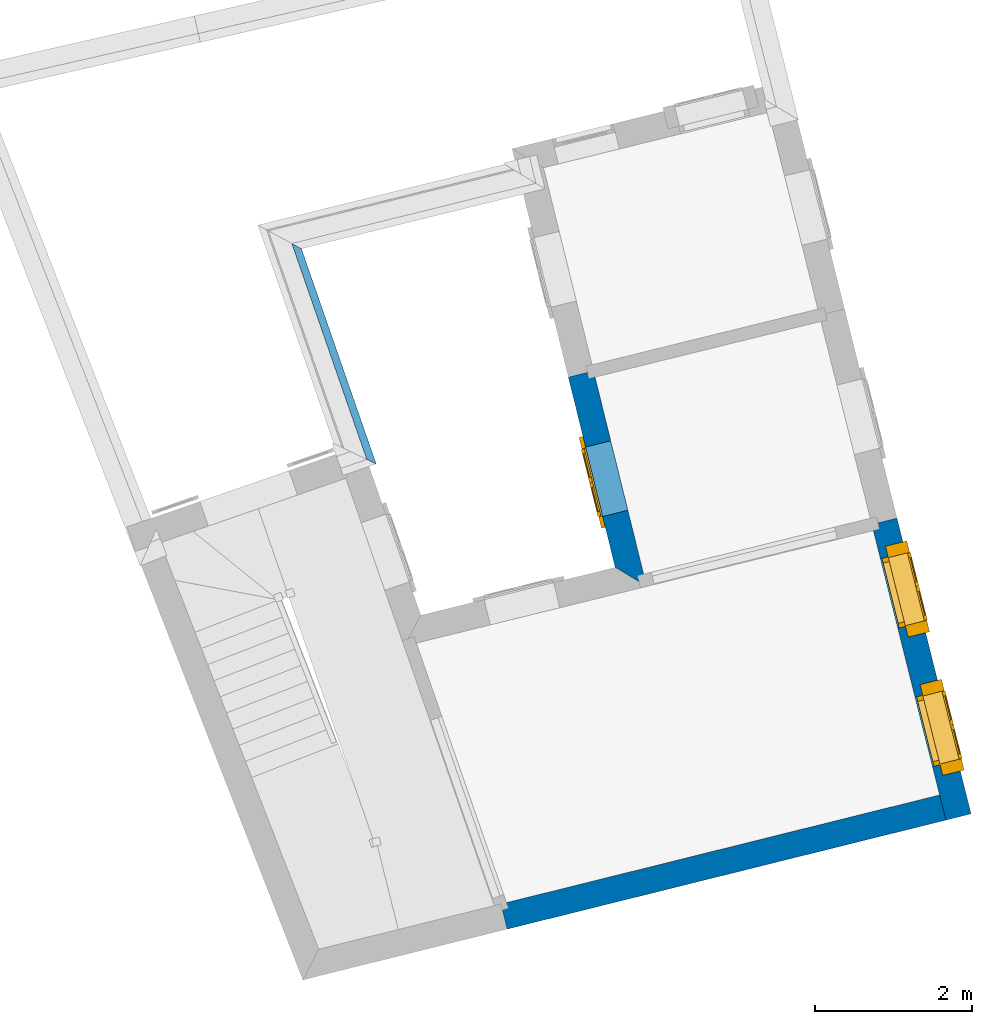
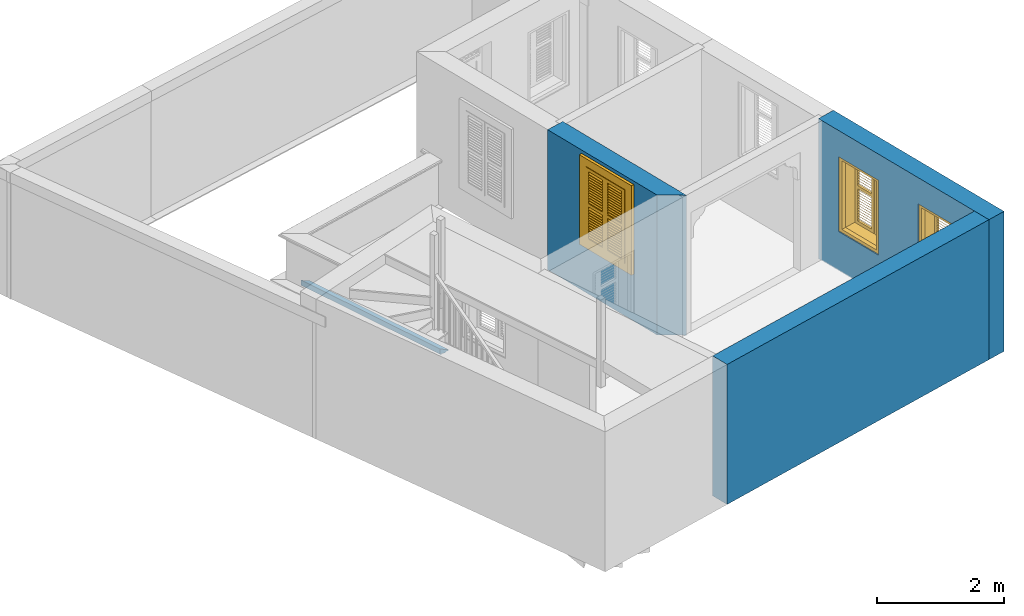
# One storey, part 3 of 8: 4 walls, 3 windows, 3 openings.
"""IFC4 building model written with IfcOpenShell, lengths in metres."""

from ifc_helpers import new_model, si_unit, frame, origin, origin_with_axes, place, context, subcontext, project, spatial, polyline, outline, extrude, clip, halfspace, faceted_brep, source, transform, mapped, material, layer, layer_set, layer_usage, material_profile, profile_set, profile_usage, type_object, type_shapes, element, fill, save


model = new_model("IFC4")

# Units and contexts
model_context = context("Model", 3, world=origin_with_axes())
body_context = subcontext(model_context, "Body", "Model", "MODEL_VIEW")
ifc_project = project(units=[si_unit("PLANEANGLEUNIT", "RADIAN"), si_unit("MASSUNIT", "GRAM", prefix="KILO"), si_unit("FORCEUNIT", "NEWTON", prefix="KILO"), si_unit("LENGTHUNIT", "METRE"), si_unit("AREAUNIT", "SQUARE_METRE"), si_unit("VOLUMEUNIT", "CUBIC_METRE")], contexts=[model_context, model_context])

# Site, building, storey
site_placement = place(None, origin_with_axes())
site = spatial("IfcSite", under=ifc_project, at=site_placement, Name="Site plot-1", CompositionType="ELEMENT")
building_placement = place(None, origin_with_axes())
building = spatial("IfcBuilding", under=site, at=building_placement, Name="Building plot-1", CompositionType="ELEMENT")
storey_placement = place(None, frame((0.0, 0.0, 2.7), z_axis=(0.0, 0.0, 1.0), x_axis=(1.0, 0.0, 0.0)))
storey = spatial("IfcBuildingStorey", under=building, at=storey_placement, Name="plot-1 1", CompositionType="ELEMENT", Elevation=2.7)

# Wall, openings, windows
ifc_material_1 = material(Name="Masonry")
ifc_layer_1 = layer(ifc_material_1, 0.33, ventilated=False)
ifc_layer_set_1 = layer_set([ifc_layer_1], Name="exterior_0.08_0.25")
ifc_layer_usage_1 = layer_usage(ifc_layer_set_1, "AXIS2", "POSITIVE", -0.25)
wall_type_1 = type_object("IfcWallType", Name="exterior_0.08_0.25", PredefinedType="SOLIDWALL", material=ifc_layer_set_1)
wall_1_placement = place(storey_placement, frame((7.07192765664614, 15.8037351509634, 0.0), z_axis=(0.0, 0.0, 1.0), x_axis=(-0.242972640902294, 0.970033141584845, 0.0)))
wall_1 = element("IfcWall", 1, at=wall_1_placement, inside=storey, type_object=wall_type_1, material=ifc_layer_usage_1, Name="exterior", context=body_context, shape_type="SweptSolid", body=[
    extrude(outline(polyline([(-0.249999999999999, 0.0799999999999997), (-0.249999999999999, -0.25), (3.62583000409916, -0.25), (3.62583000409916, 0.08), (-0.249999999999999, 0.0799999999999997)])), origin_with_axes(), (0.0, 0.0, 1.0), 2.7),
])
opening_1_placement = place(wall_1_placement, frame((0.451457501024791, 0.0, 0.75)))
opening_1 = element("IfcOpeningElement", 2, at=opening_1_placement, cuts=wall_1, Name="My Opening", ObjectType="Opening", context=body_context, shape_type="SweptSolid", body=[
    extrude(outline(polyline([(0.0, -0.270000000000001), (0.909999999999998, -0.27), (0.909999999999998, 1.1), (-4.44089209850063e-16, 1.1), (0.0, -0.270000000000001)])), origin_with_axes(), (0.0, 0.0, 1.0), 1.445),
])
opening_2_placement = place(wall_1_placement, frame((2.26437250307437, 0.0, 0.75)))
opening_2 = element("IfcOpeningElement", 3, at=opening_2_placement, cuts=wall_1, Name="My Opening", ObjectType="Opening", context=body_context, shape_type="SweptSolid", body=[
    extrude(outline(polyline([(0.0, -0.27), (0.910000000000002, -0.27), (0.910000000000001, 1.1), (-4.44089209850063e-16, 1.1), (0.0, -0.27)])), origin_with_axes(), (0.0, 0.0, 1.0), 1.445),
])
window_type = type_object("IfcWindowType", Name="shuttered_shorter", PartitioningType="DOUBLE_PANEL_HORIZONTAL", PredefinedType="NOTDEFINED")
shared_shape = source(origin(), body_context, "Body", "Brep", [
    faceted_brep([(0.393, 0.0, 0.622), (0.074, 0.0, 0.622), (0.074, 0.0, 0.632), (0.393, 0.0, 0.632), (0.074, -0.04, 0.592), (0.393, -0.04, 0.592), (0.393, -0.04, 0.582), (0.074, -0.04, 0.582), (0.517, 0.0, 0.682), (0.836, 0.0, 0.682), (0.836, 0.0, 0.672), (0.517, 0.0, 0.672), (0.517, -0.04, 0.642), (0.836, -0.04, 0.642), (0.836, -0.04, 0.632), (0.517, -0.04, 0.632), (0.517, 0.0, 0.632), (0.836, 0.0, 0.632), (0.836, 0.0, 0.622), (0.517, 0.0, 0.622), (0.517, -0.04, 0.592), (0.836, -0.04, 0.592), (0.836, -0.04, 0.582), (0.517, -0.04, 0.582), (0.517, 0.0, 0.232), (0.836, 0.0, 0.232), (0.836, 0.0, 0.222), (0.517, 0.0, 0.222), (0.517, -0.04, 0.192), (0.836, -0.04, 0.192), (0.836, -0.04, 0.182), (0.517, -0.04, 0.182), (0.517, 0.0, 0.532), (0.836, 0.0, 0.532), (0.836, 0.0, 0.522), (0.517, 0.0, 0.522), (0.517, -0.04, 0.492), (0.836, -0.04, 0.492), (0.836, -0.04, 0.482), (0.517, -0.04, 0.482), (0.517, 0.0, 0.482), (0.836, 0.0, 0.482), (0.836, 0.0, 0.472), (0.517, 0.0, 0.472), (0.517, -0.04, 0.442), (0.836, -0.04, 0.442), (0.836, -0.04, 0.432), (0.517, -0.04, 0.432), (0.517, 0.0, 0.582), (0.836, 0.0, 0.582), (0.836, 0.0, 0.572), (0.517, 0.0, 0.572), (0.517, -0.04, 0.542), (0.836, -0.04, 0.542), (0.836, -0.04, 0.532), (0.517, -0.04, 0.532), (0.517, 0.0, 0.182), (0.836, 0.0, 0.182), (0.836, 0.0, 0.172), (0.517, 0.0, 0.172), (0.517, -0.04, 0.142), (0.836, -0.04, 0.142), (0.836, -0.04, 0.132), (0.517, -0.04, 0.132), (0.517, 0.0, 0.382), (0.836, 0.0, 0.382), (0.836, 0.0, 0.372), (0.517, 0.0, 0.372), (0.517, -0.04, 0.342), (0.836, -0.04, 0.342), (0.836, -0.04, 0.332), (0.517, -0.04, 0.332), (0.517, 0.0, 0.432), (0.836, 0.0, 0.432), (0.836, 0.0, 0.422), (0.517, 0.0, 0.422), (0.517, -0.04, 0.392), (0.836, -0.04, 0.392), (0.836, -0.04, 0.382), (0.517, -0.04, 0.382), (0.517, 0.0, 0.132), (0.836, 0.0, 0.132), (0.836, 0.0, 0.122), (0.517, 0.0, 0.122), (0.517, -0.04, 0.092), (0.836, -0.04, 0.092), (0.836, -0.04, 0.082), (0.517, -0.04, 0.082), (0.517, 0.0, 0.282), (0.836, 0.0, 0.282), (0.836, 0.0, 0.272), (0.517, 0.0, 0.272), (0.517, -0.04, 0.242), (0.836, -0.04, 0.242), (0.836, -0.04, 0.232), (0.517, -0.04, 0.232), (0.517, 0.0, 0.332), (0.836, 0.0, 0.332), (0.836, 0.0, 0.322), (0.517, 0.0, 0.322), (0.517, -0.04, 0.292), (0.836, -0.04, 0.292), (0.836, -0.04, 0.282), (0.517, -0.04, 0.282), (0.517, 0.0, 1.362667), (0.836, 0.0, 1.362667), (0.836, 0.0, 1.352667), (0.517, 0.0, 1.352667), (0.517, -0.04, 1.322667), (0.836, -0.04, 1.322667), (0.836, -0.04, 1.312667), (0.517, -0.04, 1.312667), (0.517, 0.0, 1.312667), (0.836, 0.0, 1.312667), (0.836, 0.0, 1.302667), (0.517, 0.0, 1.302667), (0.517, -0.04, 1.272667), (0.836, -0.04, 1.272667), (0.836, -0.04, 1.262667), (0.517, -0.04, 1.262667), (0.517, 0.0, 0.912667), (0.836, 0.0, 0.912667), (0.836, 0.0, 0.902667), (0.517, 0.0, 0.902667), (0.517, -0.04, 0.872667), (0.836, -0.04, 0.872667), (0.836, -0.04, 0.862667), (0.517, -0.04, 0.862667), (0.517, 0.0, 1.212667), (0.836, 0.0, 1.212667), (0.836, 0.0, 1.202667), (0.517, 0.0, 1.202667), (0.517, -0.04, 1.172667), (0.836, -0.04, 1.172667), (0.836, -0.04, 1.162667), (0.517, -0.04, 1.162667), (0.517, 0.0, 1.162667), (0.836, 0.0, 1.162667), (0.836, 0.0, 1.152667), (0.517, 0.0, 1.152667), (0.517, -0.04, 1.122667), (0.836, -0.04, 1.122667), (0.836, -0.04, 1.112667), (0.517, -0.04, 1.112667), (0.517, 0.0, 1.262667), (0.836, 0.0, 1.262667), (0.836, 0.0, 1.252667), (0.517, 0.0, 1.252667), (0.517, -0.04, 1.222667), (0.836, -0.04, 1.222667), (0.836, -0.04, 1.212667), (0.517, -0.04, 1.212667), (0.517, 0.0, 0.862667), (0.836, 0.0, 0.862667), (0.836, 0.0, 0.852667), (0.517, 0.0, 0.852667), (0.517, -0.04, 0.822667), (0.836, -0.04, 0.822667), (0.836, -0.04, 0.812667), (0.517, -0.04, 0.812667), (0.517, 0.0, 1.062667), (0.836, 0.0, 1.062667), (0.836, 0.0, 1.052667), (0.517, 0.0, 1.052667), (0.517, -0.04, 1.022667), (0.836, -0.04, 1.022667), (0.836, -0.04, 1.012667), (0.517, -0.04, 1.012667), (0.517, 0.0, 1.112667), (0.836, 0.0, 1.112667), (0.836, 0.0, 1.102667), (0.517, 0.0, 1.102667), (0.517, -0.04, 1.072667), (0.836, -0.04, 1.072667), (0.836, -0.04, 1.062667), (0.517, -0.04, 1.062667), (0.517, 0.0, 0.812667), (0.836, 0.0, 0.812667), (0.836, 0.0, 0.802667), (0.517, 0.0, 0.802667), (0.517, -0.04, 0.772667), (0.836, -0.04, 0.772667), (0.836, -0.04, 0.762667), (0.517, -0.04, 0.762667), (0.517, 0.0, 0.962667), (0.836, 0.0, 0.962667), (0.836, 0.0, 0.952667), (0.517, 0.0, 0.952667), (0.517, -0.04, 0.922667), (0.836, -0.04, 0.922667), (0.836, -0.04, 0.912667), (0.517, -0.04, 0.912667), (0.517, 0.0, 1.012667), (0.836, 0.0, 1.012667), (0.836, 0.0, 1.002667), (0.517, 0.0, 1.002667), (0.517, -0.04, 0.972667), (0.836, -0.04, 0.972667), (0.836, -0.04, 0.962667), (0.517, -0.04, 0.962667), (0.074, 0.0, 0.682), (0.393, 0.0, 0.682), (0.393, 0.0, 0.672), (0.074, 0.0, 0.672), (0.074, -0.04, 0.642), (0.393, -0.04, 0.642), (0.393, -0.04, 0.632), (0.074, -0.04, 0.632), (0.074, 0.0, 0.232), (0.393, 0.0, 0.232), (0.393, 0.0, 0.222), (0.074, 0.0, 0.222), (0.074, -0.04, 0.192), (0.393, -0.04, 0.192), (0.393, -0.04, 0.182), (0.074, -0.04, 0.182), (0.074, 0.0, 0.532), (0.393, 0.0, 0.532), (0.393, 0.0, 0.522), (0.074, 0.0, 0.522), (0.074, -0.04, 0.492), (0.393, -0.04, 0.492), (0.393, -0.04, 0.482), (0.074, -0.04, 0.482), (0.074, 0.0, 0.482), (0.393, 0.0, 0.482), (0.393, 0.0, 0.472), (0.074, 0.0, 0.472), (0.074, -0.04, 0.442), (0.393, -0.04, 0.442), (0.393, -0.04, 0.432), (0.074, -0.04, 0.432), (0.074, 0.0, 0.582), (0.393, 0.0, 0.582), (0.393, 0.0, 0.572), (0.074, 0.0, 0.572), (0.074, -0.04, 0.542), (0.393, -0.04, 0.542), (0.393, -0.04, 0.532), (0.074, -0.04, 0.532), (0.074, 0.0, 0.182), (0.393, 0.0, 0.182), (0.393, 0.0, 0.172), (0.074, 0.0, 0.172), (0.074, -0.04, 0.142), (0.393, -0.04, 0.142), (0.393, -0.04, 0.132), (0.074, -0.04, 0.132), (0.074, 0.0, 0.382), (0.393, 0.0, 0.382), (0.393, 0.0, 0.372), (0.074, 0.0, 0.372), (0.074, -0.04, 0.342), (0.393, -0.04, 0.342), (0.393, -0.04, 0.332), (0.074, -0.04, 0.332), (0.074, 0.0, 0.432), (0.393, 0.0, 0.432), (0.393, 0.0, 0.422), (0.074, 0.0, 0.422), (0.074, -0.04, 0.392), (0.393, -0.04, 0.392), (0.393, -0.04, 0.382), (0.074, -0.04, 0.382), (0.074, 0.0, 0.132), (0.393, 0.0, 0.132), (0.393, 0.0, 0.122), (0.074, 0.0, 0.122), (0.074, -0.04, 0.092), (0.393, -0.04, 0.092), (0.393, -0.04, 0.082), (0.074, -0.04, 0.082), (0.074, 0.0, 0.282), (0.393, 0.0, 0.282), (0.393, 0.0, 0.272), (0.074, 0.0, 0.272), (0.074, -0.04, 0.242), (0.393, -0.04, 0.242), (0.393, -0.04, 0.232), (0.074, -0.04, 0.232), (0.074, 0.0, 0.332), (0.393, 0.0, 0.332), (0.393, 0.0, 0.322), (0.074, 0.0, 0.322), (0.074, -0.04, 0.292), (0.393, -0.04, 0.292), (0.393, -0.04, 0.282), (0.074, -0.04, 0.282), (0.074, 0.0, 1.362667), (0.393, 0.0, 1.362667), (0.393, 0.0, 1.352667), (0.074, 0.0, 1.352667), (0.074, -0.04, 1.322667), (0.393, -0.04, 1.322667), (0.393, -0.04, 1.312667), (0.074, -0.04, 1.312667), (0.074, 0.0, 1.312667), (0.393, 0.0, 1.312667), (0.393, 0.0, 1.302667), (0.074, 0.0, 1.302667), (0.074, -0.04, 1.272667), (0.393, -0.04, 1.272667), (0.393, -0.04, 1.262667), (0.074, -0.04, 1.262667), (0.074, 0.0, 0.912667), (0.393, 0.0, 0.912667), (0.393, 0.0, 0.902667), (0.074, 0.0, 0.902667), (0.074, -0.04, 0.872667), (0.393, -0.04, 0.872667), (0.393, -0.04, 0.862667), (0.074, -0.04, 0.862667), (0.074, 0.0, 1.212667), (0.393, 0.0, 1.212667), (0.393, 0.0, 1.202667), (0.074, 0.0, 1.202667), (0.074, -0.04, 1.172667), (0.393, -0.04, 1.172667), (0.393, -0.04, 1.162667), (0.074, -0.04, 1.162667), (0.074, 0.0, 1.162667), (0.393, 0.0, 1.162667), (0.393, 0.0, 1.152667), (0.074, 0.0, 1.152667), (0.074, -0.04, 1.122667), (0.393, -0.04, 1.122667), (0.393, -0.04, 1.112667), (0.074, -0.04, 1.112667), (0.074, 0.0, 1.262667), (0.393, 0.0, 1.262667), (0.393, 0.0, 1.252667), (0.074, 0.0, 1.252667), (0.074, -0.04, 1.222667), (0.393, -0.04, 1.222667), (0.393, -0.04, 1.212667), (0.074, -0.04, 1.212667), (0.074, 0.0, 0.862667), (0.393, 0.0, 0.862667), (0.393, 0.0, 0.852667), (0.074, 0.0, 0.852667), (0.074, -0.04, 0.822667), (0.393, -0.04, 0.822667), (0.393, -0.04, 0.812667), (0.074, -0.04, 0.812667), (0.074, 0.0, 1.062667), (0.393, 0.0, 1.062667), (0.393, 0.0, 1.052667), (0.074, 0.0, 1.052667), (0.074, -0.04, 1.022667), (0.393, -0.04, 1.022667), (0.393, -0.04, 1.012667), (0.074, -0.04, 1.012667), (0.074, 0.0, 1.112667), (0.393, 0.0, 1.112667), (0.393, 0.0, 1.102667), (0.074, 0.0, 1.102667), (0.074, -0.04, 1.072667), (0.393, -0.04, 1.072667), (0.393, -0.04, 1.062667), (0.074, -0.04, 1.062667), (0.074, 0.0, 0.812667), (0.393, 0.0, 0.812667), (0.393, 0.0, 0.802667), (0.074, 0.0, 0.802667), (0.074, -0.04, 0.772667), (0.393, -0.04, 0.772667), (0.393, -0.04, 0.762667), (0.074, -0.04, 0.762667), (0.074, 0.0, 0.962667), (0.393, 0.0, 0.962667), (0.393, 0.0, 0.952667), (0.074, 0.0, 0.952667), (0.074, -0.04, 0.922667), (0.393, -0.04, 0.922667), (0.393, -0.04, 0.912667), (0.074, -0.04, 0.912667), (0.074, 0.0, 1.012667), (0.393, 0.0, 1.012667), (0.393, 0.0, 1.002667), (0.074, 0.0, 1.002667), (0.074, -0.04, 0.972667), (0.393, -0.04, 0.972667), (0.393, -0.04, 0.962667), (0.074, -0.04, 0.962667), (0.517, -0.04, 0.072), (0.457, -0.04, 0.012), (0.896, -0.04, 0.012), (0.836, -0.04, 0.072), (0.457, -0.04, 0.692667), (0.517, -0.04, 0.692667), (0.457, 0.0, 0.012), (0.896, 0.0, 0.012), (0.836, -0.04, 0.692667), (0.896, -0.04, 0.692667), (0.836, 0.0, 0.072), (0.517, 0.0, 0.072), (0.457, 0.0, 0.692667), (0.517, 0.0, 0.692667), (0.517, -0.04, 0.752666), (0.457, -0.04, 0.752666), (0.896, 0.0, 0.692667), (0.836, 0.0, 0.692667), (0.836, -0.04, 0.752666), (0.896, -0.04, 0.752666), (0.457, 0.0, 0.752666), (0.457, -0.04, 1.433333), (0.517, -0.04, 1.373333), (0.896, 0.0, 0.752666), (0.836, -0.04, 1.373333), (0.896, -0.04, 1.433333), (0.457, 0.0, 1.433333), (0.517, 0.0, 0.752666), (0.836, 0.0, 0.752666), (0.517, 0.0, 1.373333), (0.896, 0.0, 1.433333), (0.836, 0.0, 1.373333), (0.074, -0.04, 0.072), (0.014, -0.04, 0.012), (0.453, -0.04, 0.012), (0.393, -0.04, 0.072), (0.014, -0.04, 0.692667), (0.074, -0.04, 0.692667), (0.014, 0.0, 0.012), (0.453, 0.0, 0.012), (0.393, -0.04, 0.692667), (0.453, -0.04, 0.692667), (0.393, 0.0, 0.072), (0.074, 0.0, 0.072), (0.014, 0.0, 0.692667), (0.074, 0.0, 0.692667), (0.074, -0.04, 0.752666), (0.014, -0.04, 0.752666), (0.453, 0.0, 0.692667), (0.393, 0.0, 0.692667), (0.393, -0.04, 0.752666), (0.453, -0.04, 0.752666), (0.014, 0.0, 0.752666), (0.014, -0.04, 1.433333), (0.074, -0.04, 1.373333), (0.453, 0.0, 0.752666), (0.393, -0.04, 1.373333), (0.453, -0.04, 1.433333), (0.014, 0.0, 1.433333), (0.074, 0.0, 0.752666), (0.393, 0.0, 0.752666), (0.074, 0.0, 1.373333), (0.453, 0.0, 1.433333), (0.393, 0.0, 1.373333), (0.0, 0.33, 1.445), (0.91, 0.33, 1.445), (0.85, 0.33, 1.385), (0.06, 0.33, 1.385), (0.91, 0.25, 1.445), (0.0, 0.25, 1.445), (0.91, 0.25, 1.445), (0.85, 0.33, 0.06), (0.91, 0.33, 0.0), (0.85, 0.25, 1.385), (0.06, 0.25, 1.385), (0.0, 0.33, 0.0), (0.06, 0.33, 0.06), (0.0, 0.25, 0.0), (0.91, 0.25, 0.0), (0.85, 0.25, 0.06), (0.06, 0.25, 0.06), (1.05, 0.25, 1.585), (-0.14, 0.25, 1.585), (-0.14, -0.03, 1.585), (1.05, -0.03, 1.585), (0.9, -0.03, 1.435), (0.01, -0.03, 1.435), (0.01, 0.25, 1.435), (0.9, 0.25, 1.435), (0.9, 0.25, 0.01), (0.9, -0.03, 0.01), (1.05, -0.03, -0.14), (1.05, 0.25, -0.14), (0.01, -0.03, 0.01), (0.01, 0.25, 0.01), (-0.14, -0.03, -0.14), (-0.14, 0.25, -0.14)], [[[0, 1, 2, 3]], [[4, 5, 3, 2]], [[5, 6, 0, 3]], [[1, 0, 6, 7]], [[2, 1, 7, 4]], [[5, 4, 7, 6]], [[8, 9, 10, 11]], [[12, 13, 9, 8]], [[13, 14, 10, 9]], [[14, 15, 11, 10]], [[15, 12, 8, 11]], [[13, 12, 15, 14]], [[16, 17, 18, 19]], [[20, 21, 17, 16]], [[21, 22, 18, 17]], [[22, 23, 19, 18]], [[23, 20, 16, 19]], [[21, 20, 23, 22]], [[24, 25, 26, 27]], [[28, 29, 25, 24]], [[29, 30, 26, 25]], [[30, 31, 27, 26]], [[31, 28, 24, 27]], [[29, 28, 31, 30]], [[32, 33, 34, 35]], [[36, 37, 33, 32]], [[37, 38, 34, 33]], [[38, 39, 35, 34]], [[39, 36, 32, 35]], [[37, 36, 39, 38]], [[40, 41, 42, 43]], [[44, 45, 41, 40]], [[45, 46, 42, 41]], [[46, 47, 43, 42]], [[47, 44, 40, 43]], [[45, 44, 47, 46]], [[48, 49, 50, 51]], [[52, 53, 49, 48]], [[53, 54, 50, 49]], [[54, 55, 51, 50]], [[55, 52, 48, 51]], [[53, 52, 55, 54]], [[56, 57, 58, 59]], [[60, 61, 57, 56]], [[61, 62, 58, 57]], [[62, 63, 59, 58]], [[63, 60, 56, 59]], [[61, 60, 63, 62]], [[64, 65, 66, 67]], [[68, 69, 65, 64]], [[69, 70, 66, 65]], [[70, 71, 67, 66]], [[71, 68, 64, 67]], [[69, 68, 71, 70]], [[72, 73, 74, 75]], [[76, 77, 73, 72]], [[77, 78, 74, 73]], [[78, 79, 75, 74]], [[79, 76, 72, 75]], [[77, 76, 79, 78]], [[80, 81, 82, 83]], [[84, 85, 81, 80]], [[85, 86, 82, 81]], [[86, 87, 83, 82]], [[87, 84, 80, 83]], [[85, 84, 87, 86]], [[88, 89, 90, 91]], [[92, 93, 89, 88]], [[93, 94, 90, 89]], [[94, 95, 91, 90]], [[95, 92, 88, 91]], [[93, 92, 95, 94]], [[96, 97, 98, 99]], [[100, 101, 97, 96]], [[101, 102, 98, 97]], [[102, 103, 99, 98]], [[103, 100, 96, 99]], [[101, 100, 103, 102]], [[104, 105, 106, 107]], [[108, 109, 105, 104]], [[109, 110, 106, 105]], [[110, 111, 107, 106]], [[111, 108, 104, 107]], [[109, 108, 111, 110]], [[112, 113, 114, 115]], [[116, 117, 113, 112]], [[117, 118, 114, 113]], [[118, 119, 115, 114]], [[119, 116, 112, 115]], [[117, 116, 119, 118]], [[120, 121, 122, 123]], [[124, 125, 121, 120]], [[125, 126, 122, 121]], [[126, 127, 123, 122]], [[127, 124, 120, 123]], [[125, 124, 127, 126]], [[128, 129, 130, 131]], [[132, 133, 129, 128]], [[133, 134, 130, 129]], [[134, 135, 131, 130]], [[135, 132, 128, 131]], [[133, 132, 135, 134]], [[136, 137, 138, 139]], [[140, 141, 137, 136]], [[141, 142, 138, 137]], [[142, 143, 139, 138]], [[139, 143, 140, 136]], [[141, 140, 143, 142]], [[144, 145, 146, 147]], [[148, 149, 145, 144]], [[149, 150, 146, 145]], [[150, 151, 147, 146]], [[151, 148, 144, 147]], [[149, 148, 151, 150]], [[152, 153, 154, 155]], [[156, 157, 153, 152]], [[157, 158, 154, 153]], [[158, 159, 155, 154]], [[159, 156, 152, 155]], [[157, 156, 159, 158]], [[160, 161, 162, 163]], [[164, 165, 161, 160]], [[165, 166, 162, 161]], [[166, 167, 163, 162]], [[167, 164, 160, 163]], [[165, 164, 167, 166]], [[168, 169, 170, 171]], [[172, 173, 169, 168]], [[173, 174, 170, 169]], [[174, 175, 171, 170]], [[175, 172, 168, 171]], [[173, 172, 175, 174]], [[176, 177, 178, 179]], [[180, 181, 177, 176]], [[181, 182, 178, 177]], [[182, 183, 179, 178]], [[183, 180, 176, 179]], [[181, 180, 183, 182]], [[184, 185, 186, 187]], [[188, 189, 185, 184]], [[189, 190, 186, 185]], [[190, 191, 187, 186]], [[191, 188, 184, 187]], [[189, 188, 191, 190]], [[192, 193, 194, 195]], [[196, 197, 193, 192]], [[197, 198, 194, 193]], [[198, 199, 195, 194]], [[199, 196, 192, 195]], [[197, 196, 199, 198]], [[200, 201, 202, 203]], [[204, 205, 201, 200]], [[205, 206, 202, 201]], [[206, 207, 203, 202]], [[207, 204, 200, 203]], [[205, 204, 207, 206]], [[208, 209, 210, 211]], [[212, 213, 209, 208]], [[213, 214, 210, 209]], [[214, 215, 211, 210]], [[215, 212, 208, 211]], [[213, 212, 215, 214]], [[216, 217, 218, 219]], [[220, 221, 217, 216]], [[221, 222, 218, 217]], [[222, 223, 219, 218]], [[223, 220, 216, 219]], [[221, 220, 223, 222]], [[224, 225, 226, 227]], [[228, 229, 225, 224]], [[229, 230, 226, 225]], [[230, 231, 227, 226]], [[231, 228, 224, 227]], [[229, 228, 231, 230]], [[232, 233, 234, 235]], [[236, 237, 233, 232]], [[237, 238, 234, 233]], [[238, 239, 235, 234]], [[239, 236, 232, 235]], [[237, 236, 239, 238]], [[240, 241, 242, 243]], [[244, 245, 241, 240]], [[245, 246, 242, 241]], [[246, 247, 243, 242]], [[247, 244, 240, 243]], [[245, 244, 247, 246]], [[248, 249, 250, 251]], [[252, 253, 249, 248]], [[253, 254, 250, 249]], [[254, 255, 251, 250]], [[255, 252, 248, 251]], [[253, 252, 255, 254]], [[256, 257, 258, 259]], [[260, 261, 257, 256]], [[261, 262, 258, 257]], [[262, 263, 259, 258]], [[263, 260, 256, 259]], [[261, 260, 263, 262]], [[264, 265, 266, 267]], [[268, 269, 265, 264]], [[269, 270, 266, 265]], [[270, 271, 267, 266]], [[271, 268, 264, 267]], [[269, 268, 271, 270]], [[272, 273, 274, 275]], [[276, 277, 273, 272]], [[277, 278, 274, 273]], [[278, 279, 275, 274]], [[279, 276, 272, 275]], [[277, 276, 279, 278]], [[280, 281, 282, 283]], [[284, 285, 281, 280]], [[285, 286, 282, 281]], [[286, 287, 283, 282]], [[287, 284, 280, 283]], [[285, 284, 287, 286]], [[288, 289, 290, 291]], [[292, 293, 289, 288]], [[293, 294, 290, 289]], [[294, 295, 291, 290]], [[295, 292, 288, 291]], [[293, 292, 295, 294]], [[296, 297, 298, 299]], [[300, 301, 297, 296]], [[301, 302, 298, 297]], [[302, 303, 299, 298]], [[303, 300, 296, 299]], [[301, 300, 303, 302]], [[304, 305, 306, 307]], [[308, 309, 305, 304]], [[309, 310, 306, 305]], [[310, 311, 307, 306]], [[311, 308, 304, 307]], [[309, 308, 311, 310]], [[312, 313, 314, 315]], [[316, 317, 313, 312]], [[317, 318, 314, 313]], [[318, 319, 315, 314]], [[319, 316, 312, 315]], [[317, 316, 319, 318]], [[320, 321, 322, 323]], [[324, 325, 321, 320]], [[325, 326, 322, 321]], [[326, 327, 323, 322]], [[327, 324, 320, 323]], [[325, 324, 327, 326]], [[328, 329, 330, 331]], [[332, 333, 329, 328]], [[333, 334, 330, 329]], [[334, 335, 331, 330]], [[335, 332, 328, 331]], [[333, 332, 335, 334]], [[336, 337, 338, 339]], [[340, 341, 337, 336]], [[341, 342, 338, 337]], [[342, 343, 339, 338]], [[343, 340, 336, 339]], [[341, 340, 343, 342]], [[344, 345, 346, 347]], [[348, 349, 345, 344]], [[349, 350, 346, 345]], [[350, 351, 347, 346]], [[351, 348, 344, 347]], [[349, 348, 351, 350]], [[352, 353, 354, 355]], [[356, 357, 353, 352]], [[357, 358, 354, 353]], [[358, 359, 355, 354]], [[359, 356, 352, 355]], [[357, 356, 359, 358]], [[360, 361, 362, 363]], [[364, 365, 361, 360]], [[365, 366, 362, 361]], [[366, 367, 363, 362]], [[367, 364, 360, 363]], [[365, 364, 367, 366]], [[368, 369, 370, 371]], [[372, 373, 369, 368]], [[373, 374, 370, 369]], [[374, 375, 371, 370]], [[375, 372, 368, 371]], [[373, 372, 375, 374]], [[376, 377, 378, 379]], [[380, 381, 377, 376]], [[381, 382, 378, 377]], [[382, 383, 379, 378]], [[383, 380, 376, 379]], [[381, 380, 383, 382]], [[384, 385, 386, 387]], [[388, 385, 384, 389]], [[390, 391, 386, 385]], [[392, 387, 386, 393]], [[384, 387, 394, 395]], [[390, 385, 388, 396]], [[389, 384, 395, 397]], [[389, 398, 399, 388]], [[390, 395, 394, 391]], [[400, 393, 386, 391]], [[387, 392, 401, 394]], [[402, 392, 393, 403]], [[396, 388, 399, 404]], [[390, 396, 397, 395]], [[392, 389, 397, 401]], [[398, 389, 392, 402]], [[405, 399, 398, 406]], [[394, 401, 400, 391]], [[407, 403, 393, 400]], [[408, 402, 403, 409]], [[404, 399, 405, 410]], [[411, 397, 396, 404]], [[397, 411, 412, 401]], [[398, 402, 412, 411]], [[406, 398, 411, 413]], [[405, 406, 408, 409]], [[401, 412, 407, 400]], [[414, 409, 403, 407]], [[402, 408, 415, 412]], [[405, 409, 414, 410]], [[404, 410, 413, 411]], [[408, 406, 413, 415]], [[412, 415, 414, 407]], [[413, 410, 414, 415]], [[416, 417, 418, 419]], [[420, 417, 416, 421]], [[422, 423, 418, 417]], [[424, 419, 418, 425]], [[416, 419, 426, 427]], [[422, 417, 420, 428]], [[421, 416, 427, 429]], [[421, 430, 431, 420]], [[422, 427, 426, 423]], [[432, 425, 418, 423]], [[419, 424, 433, 426]], [[434, 424, 425, 435]], [[428, 420, 431, 436]], [[422, 428, 429, 427]], [[424, 421, 429, 433]], [[430, 421, 424, 434]], [[437, 431, 430, 438]], [[426, 433, 432, 423]], [[439, 435, 425, 432]], [[440, 434, 435, 441]], [[436, 431, 437, 442]], [[443, 429, 428, 436]], [[429, 443, 444, 433]], [[430, 434, 444, 443]], [[438, 430, 443, 445]], [[437, 438, 440, 441]], [[433, 444, 439, 432]], [[446, 441, 435, 439]], [[434, 440, 447, 444]], [[437, 441, 446, 442]], [[436, 442, 445, 443]], [[440, 438, 445, 447]], [[444, 447, 446, 439]], [[445, 442, 446, 447]], [[448, 449, 450, 451]], [[452, 449, 448]], [[448, 453, 454]], [[448, 454, 452]], [[455, 450, 449, 456]], [[451, 450, 457, 458]], [[459, 448, 451, 460]], [[448, 459, 461, 453]], [[454, 453, 458, 457]], [[462, 452, 454]], [[454, 457, 463]], [[454, 463, 462]], [[456, 449, 452, 462]], [[450, 455, 463, 457]], [[456, 459, 460, 455]], [[460, 451, 458, 464]], [[459, 456, 462, 461]], [[464, 458, 453, 461]], [[461, 462, 463, 464]], [[455, 460, 464, 463]], [[465, 466, 467, 468]], [[469, 470, 471, 472]], [[473, 474, 469, 472]], [[465, 468, 475, 476]], [[470, 477, 478, 471]], [[474, 473, 478, 477]], [[474, 477, 479, 475]], [[470, 467, 479, 477]], [[470, 469, 468, 467]], [[474, 475, 468, 469]], [[471, 478, 480, 466]], [[473, 472, 465, 476]], [[473, 476, 480, 478]], [[466, 465, 472, 471]], [[480, 476, 475, 479]], [[480, 479, 467, 466]]]),
])
type_shapes(window_type, [shared_shape])
window_1_placement = place(storey_placement, frame((7.22414478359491, 16.3072665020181, 0.75), z_axis=(0.0, 0.0, 1.0), x_axis=(-0.221105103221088, 0.882730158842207, 0.0)))
window_1 = element("IfcWindow", 4, at=window_1_placement, inside=storey, type_object=window_type, Name="living outside window", OverallHeight=1.445, OverallWidth=0.91, context=body_context, shape_type="MappedRepresentation", body=[
    mapped(shared_shape, transform((0.0, 0.0, 0.0), scale=1.0)),
])
fill(opening_1, window_1)
window_2_placement = place(storey_placement, frame((6.78365603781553, 18.0658541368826, 0.75), z_axis=(0.0, 0.0, 1.0), x_axis=(-0.221105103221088, 0.882730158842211, 0.0)))
window_2 = element("IfcWindow", 5, at=window_2_placement, inside=storey, type_object=window_type, Name="living outside window", OverallHeight=1.445, OverallWidth=0.91, context=body_context, shape_type="MappedRepresentation", body=[
    mapped(shared_shape, transform((0.0, 0.0, 0.0), scale=1.0)),
])
fill(opening_2, window_2)

# Wall, opening, window
wall_2_placement = place(storey_placement, frame((2.49804151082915, 21.2338836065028, 0.0), z_axis=(0.0, 0.0, 1.0), x_axis=(0.239234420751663, -0.970961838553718, 0.0)))
wall_2 = element("IfcWall", 6, at=wall_2_placement, inside=storey, type_object=wall_type_1, material=ifc_layer_usage_1, Name="exterior", context=body_context, shape_type="SweptSolid", body=[
    extrude(outline(polyline([(-2.43791370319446e-16, 0.0800000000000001), (-1.37819188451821e-15, -0.25), (2.49089482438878, -0.249999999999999), (2.82089482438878, 0.0800000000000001), (-2.43791370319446e-16, 0.0800000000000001)])), origin_with_axes(), (0.0, 0.0, 1.0), 2.7),
])
opening_3_placement = place(wall_2_placement, frame((0.91544741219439, 0.0, 1.05)))
opening_3 = element("IfcOpeningElement", 7, at=opening_3_placement, cuts=wall_2, Name="My Opening", ObjectType="Opening", context=body_context, shape_type="SweptSolid", body=[
    extrude(outline(polyline([(0.0, -0.27), (0.910000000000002, -0.27), (0.909999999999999, 1.1), (-2.1094237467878e-15, 1.1), (0.0, -0.27)])), origin_with_axes(), (0.0, 0.0, 1.0), 1.445),
])
window_3_placement = place(storey_placement, frame((2.45488834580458, 20.2804258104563, 1.05), z_axis=(0.0, 0.0, 1.0), x_axis=(0.217703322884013, -0.883575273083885, 0.0)))
window_3 = element("IfcWindow", 8, at=window_3_placement, inside=storey, type_object=window_type, Name="kitchen outside window", OverallHeight=1.445, OverallWidth=0.91, context=body_context, shape_type="MappedRepresentation", body=[
    mapped(shared_shape, transform((0.0, 0.0, 0.0), scale=1.0)),
])
fill(opening_3, window_3)

# Walls
ifc_material_2 = material(Name="Masonry")
ifc_layer_2 = layer(ifc_material_2, 0.33, ventilated=False)
ifc_layer_set_2 = layer_set([ifc_layer_2], Name="party_0.08_0.25")
ifc_layer_usage_2 = layer_usage(ifc_layer_set_2, "AXIS2", "POSITIVE", -0.25)
wall_type_2 = type_object("IfcWallType", Name="party_0.08_0.25", PredefinedType="SOLIDWALL", material=ifc_layer_set_2)
wall_3_placement = place(storey_placement, frame((1.41761374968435, 14.3983382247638, 0.0), z_axis=(0.0, 0.0, 1.0), x_axis=(0.97047200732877, 0.241213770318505, 0.0)))
element("IfcWall", 9, at=wall_3_placement, inside=storey, type_object=wall_type_2, material=ifc_layer_usage_2, Name="party", context=body_context, shape_type="SweptSolid", body=[
    extrude(outline(polyline([(1.55032903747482e-15, 0.0800000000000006), (-4.48109516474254e-15, -0.25), (5.82635445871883, -0.250000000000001), (5.82635445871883, 0.079999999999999), (1.55032903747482e-15, 0.0800000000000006)])), origin_with_axes(), (0.0, 0.0, 1.0), 2.7),
])
ifc_material_profile = material_profile(None, outline(polyline([(0.25, -0.1), (0.265, -0.1), (0.265, -0.085), (0.278, -0.084), (0.289, -0.081), (0.301, -0.074), (0.309, -0.065), (0.315, -0.055), (0.324, -0.044), (0.334, -0.038), (0.345, -0.035), (0.345, -0.015), (0.25, 0.0), (0.25, -0.1)])))
ifc_profile_set = profile_set([ifc_material_profile])
ifc_profile_usage = profile_usage(ifc_profile_set)
wall_type_3 = type_object("IfcWallType", Name="parapet internal_2", PredefinedType="PARAPET", material=ifc_profile_set)
wall_4_placement = place(storey_placement, frame((-1.91534445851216, 23.9948237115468, 0.0), z_axis=(0.328085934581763, -0.944647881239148, 0.0), x_axis=(0.944647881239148, 0.328085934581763, 0.0)))
element("IfcWall", 10, at=wall_4_placement, inside=storey, type_object=wall_type_3, material=ifc_profile_usage, Name="parapet internal_2", context=body_context, shape_type="Clipping", body=[
    clip(clip(extrude(outline(polyline([(0.25, -0.1), (0.265, -0.1), (0.265, -0.085), (0.278, -0.084), (0.289, -0.081), (0.301, -0.074), (0.309, -0.065), (0.315, -0.055), (0.324, -0.044), (0.334, -0.038), (0.345, -0.035), (0.345, -0.015), (0.25, 0.0), (0.25, -0.1)])), origin_with_axes(), (0.0, 0.0, 1.0), 4.92966999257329), halfspace(frame((0.0, 0.0, 3.92966999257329), z_axis=(0.707106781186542, 0.0, -0.707106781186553), x_axis=(0.0, 1.0, 0.0)), True)), halfspace(frame((0.0, 0.0, 1.0), z_axis=(0.739109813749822, 0.0, -0.673584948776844), x_axis=(0.0, 1.0, 0.0)), False)),
])

save(model, "model.ifc")
